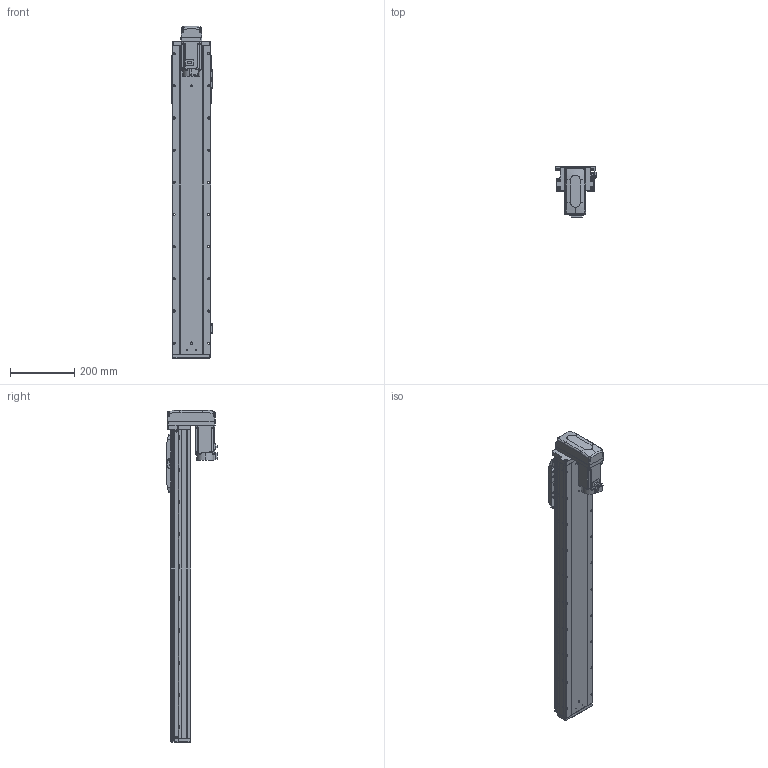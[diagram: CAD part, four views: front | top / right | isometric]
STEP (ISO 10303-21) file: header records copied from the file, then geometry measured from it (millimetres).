
FILE_DESCRIPTION (( 'STEP AP203' ), '1' );
FILE_NAME ('GTH12-750-BM-M40-C4.step', '2022-09-29T02:02:31', ( '微软用户' ), ( '微软中国' ), 'SwSTEP 2.0', 'SolidWorks 2020', '' );
FILE_SCHEMA (( 'CONFIG_CONTROL_DESIGN' ));
Length unit declared in the file: millimetre
Products named in the file (18): CTHA86-033_M40B; GTH120-006; GTH80-028; GTH120-027-1_GTH120-027-2; GTH120-004; GTH50-023; GTH12-750-BM-M40-C4; GTH120-013; GTH50-024; GBT 70.1-M3℅6; GBT96.1-2002 3×0.8; GBT 70.1-M5×16; BTH-M3X5X6; GTH120-001_750; GBT 70.3-M3℅8; hg-kn43j_-s100_; GTH120-003; GTH80-022
Assembly tree (59 placements, depth 2):
  GTH12-750-BM-M40-C4
    GTH120-001_750
    GTH120-003
    GTH120-006
    GTH120-004
    GTH120-013
    GBT 70.1-M3℅6  x14
    GBT 70.1-M5×16  x10
    GBT 70.3-M3℅8  x4
    GTH80-022
    GTH80-028  x2
    GTH50-023  x3
    GTH50-024  x3
    GBT96.1-2002 3×0.8  x6
    BTH-M3X5X6  x8
    hg-kn43j_-s100_
    CTHA86-033_M40B
    GTH120-027-1_GTH120-027-2
Bounding box: 125.7 x 159.8 x 1032 mm (x, y, z)
Volume: 7514591.4 mm3; surface area: 671907.1 mm2
Topology: 61 solids, 61 shells, 2474 faces, 5777 edges, 3545 vertices
Faces by surface type: plane 1270, cylinder 720, cone 296, torus 174, sphere 8, bspline 6
Entity records: 46575 total; most frequent: CARTESIAN_POINT 7926, DIRECTION 7713, ORIENTED_EDGE 7164, EDGE_CURVE 3582, AXIS2_PLACEMENT_3D 2697, VECTOR 2319, LINE 2319, VERTEX_POINT 2266
